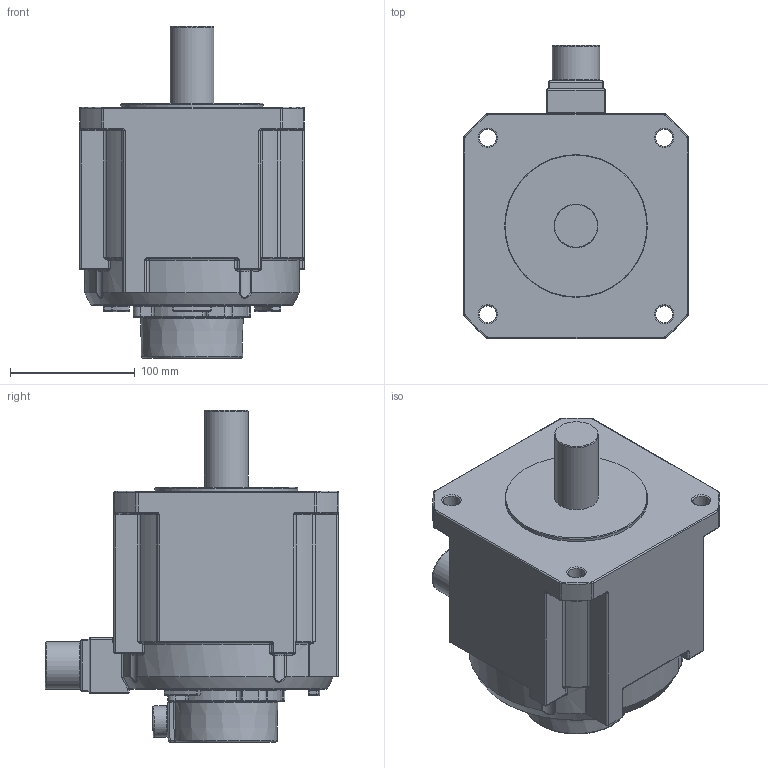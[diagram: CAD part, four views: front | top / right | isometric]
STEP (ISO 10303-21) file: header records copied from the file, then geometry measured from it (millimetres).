
FILE_DESCRIPTION(/* description */ (''),/* implementation_level */ '2;1');
FILE_NAME(/* name */ '01-180BAH27015.stp',/* time_stamp */ '2020-08-27T15:25:06+08:00',/* author */ (''),/* organization */ (''),/* preprocessor_version */ 'ST-DEVELOPER v16',/* originating_system */ 'SIEMENS PLM Software NX 10.0',/* authorisation */ '');
FILE_SCHEMA (('CONFIG_CONTROL_DESIGN'));
Length unit declared in the file: millimetre
Products named in the file (1): 01-180BAH27015
Bounding box: 180 x 235 x 266 mm (x, y, z)
Volume: 4782201.5 mm3; surface area: 198578.3 mm2
Topology: 1 solids, 1 shells, 607 faces, 1433 edges, 783 vertices
Faces by surface type: cylinder 235, torus 177, bspline 90, plane 75, sphere 22, cone 8
Full cylindrical faces by diameter (mm): 6.8 x2, 13.5 x4, 25 x1, 35 x1, 38 x1, 114.3 x1
Entity records: 19487 total; most frequent: CARTESIAN_POINT 6036, DIRECTION 3045, ORIENTED_EDGE 2694, EDGE_CURVE 1347, AXIS2_PLACEMENT_3D 1325, CIRCLE 797, VERTEX_POINT 780, EDGE_LOOP 651
